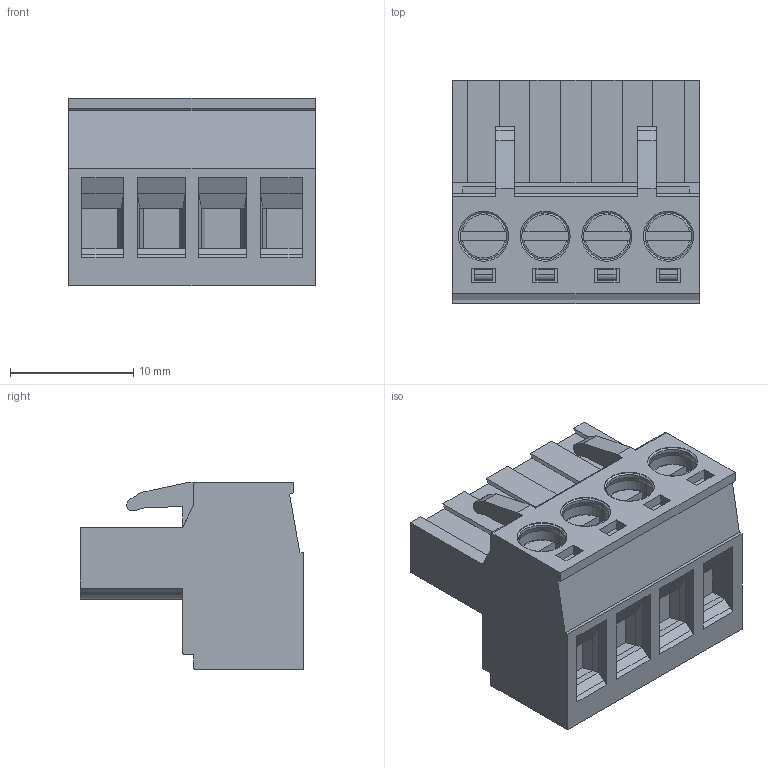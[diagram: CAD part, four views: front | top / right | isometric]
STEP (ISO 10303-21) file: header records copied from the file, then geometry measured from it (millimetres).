
FILE_DESCRIPTION(('FreeCAD Model'),'2;1');
FILE_NAME('Open CASCADE Shape Model','2023-04-26T11:50:05',('Author'),( ''),'Open CASCADE STEP processor 7.6','FreeCAD','Unknown');
FILE_SCHEMA(('AUTOMOTIVE_DESIGN { 1 0 10303 214 1 1 1 1 }'));
Length unit declared in the file: millimetre
Products named in the file (1): BR1704-F
Bounding box: 20 x 18.1 x 15.2 mm (x, y, z)
Volume: 3337.6 mm3; surface area: 2455.9 mm2
Topology: 1 solids, 1 shells, 397 faces, 968 edges, 608 vertices
Faces by surface type: plane 238, cylinder 103, cone 32, torus 24
Entity records: 25240 total; most frequent: CARTESIAN_POINT 5330, DIRECTION 3848, LINE 2436, VECTOR 2436, ORIENTED_EDGE 1936, PCURVE 1936, DEFINITIONAL_REPRESENTATION 1936, EDGE_CURVE 968
